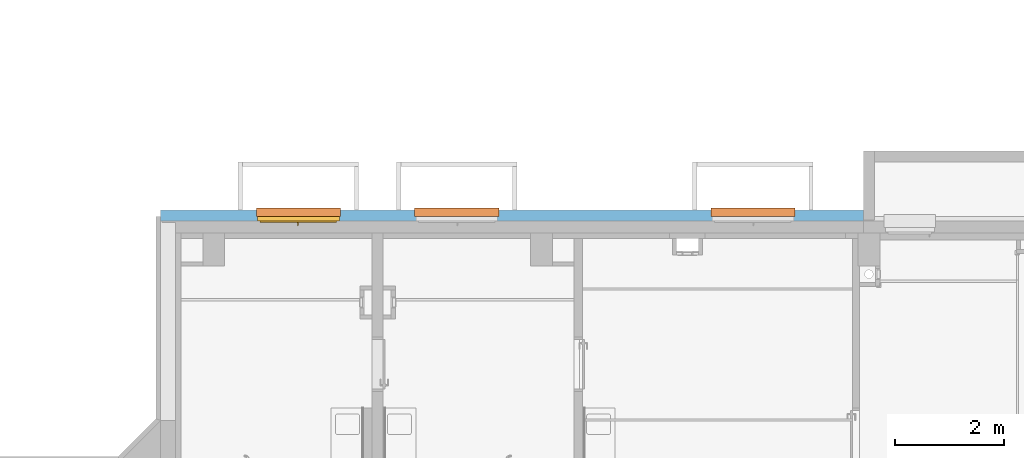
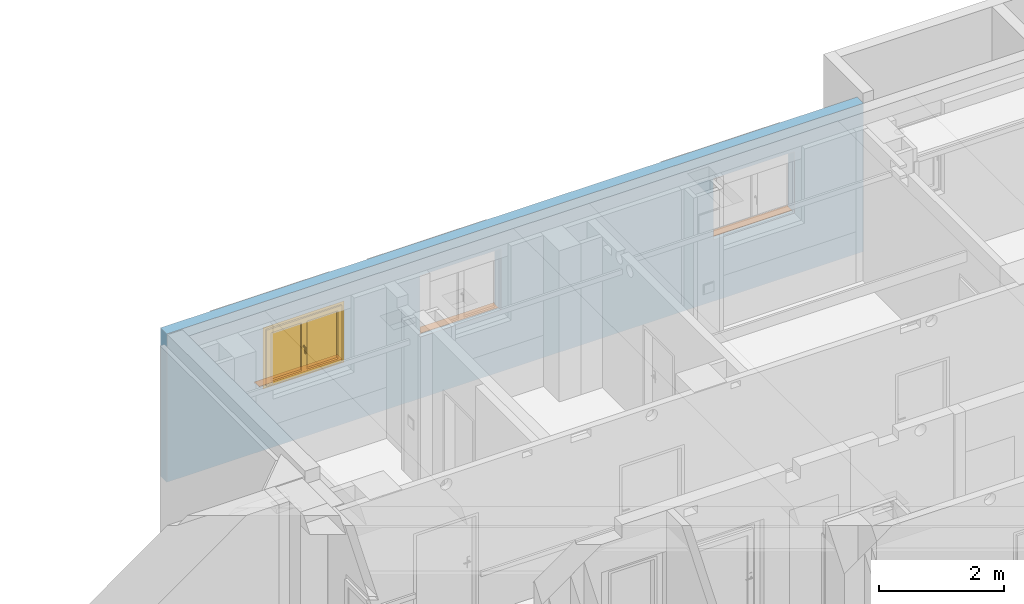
# One storey, part 61 of 84: 3 proxies, 1 window, 3 openings, plus 1 element that does not belong to this part.
"""IFC4 building model written with IfcOpenShell, lengths in metres."""

from ifc_helpers import new_model, entity, si_unit, converted_unit, derived_unit, frame, frame_2d, origin, origin_with_axes, place, context, subcontext, project, spatial, polyline, rectangle, outline, extrude, closed_shell, open_shell, faceted_brep, surface_model, source, transform, mapped, material, layer, layer_set, layer_usage, element, fill, save


model = new_model("IFC4")

# Units and contexts
model_context = context("Model", 3, precision=1e-05, world=origin())
body_context = subcontext(model_context, "Body", "Model", "MODEL_VIEW")
ifc_project = project(units=[si_unit("LENGTHUNIT", "METRE"), si_unit("AREAUNIT", "SQUARE_METRE"), si_unit("VOLUMEUNIT", "CUBIC_METRE"), si_unit("MASSUNIT", "GRAM", prefix="KILO"), converted_unit("PLANEANGLEUNIT", "DEGREE", entity("IfcPlaneAngleMeasure", 0.0174532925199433), si_unit("PLANEANGLEUNIT", "RADIAN"), dimensions=[0, 0, 0, 0, 0, 0, 0]), derived_unit("THERMALTRANSMITTANCEUNIT", [(si_unit("POWERUNIT", "WATT"), 1), (si_unit("THERMODYNAMICTEMPERATUREUNIT", "KELVIN"), -1), (si_unit("LENGTHUNIT", "METRE"), -2)]), derived_unit("VOLUMETRICFLOWRATEUNIT", [(si_unit("LENGTHUNIT", "METRE"), 3), (converted_unit("TIMEUNIT", "hour", entity("IfcTimeMeasure", 3600.0), si_unit("TIMEUNIT", "SECOND"), dimensions=[0, 0, 1, 0, 0, 0, 0]), -1), (si_unit("LENGTHUNIT", "METRE"), -1)])], contexts=[model_context])

# Site, building, storey
site_placement = place(None, origin())
site = spatial("IfcSite", under=ifc_project, at=site_placement, Name="3. ASŘ", CompositionType="ELEMENT")
building_placement = place(site_placement, origin())
building = spatial("IfcBuilding", under=site, at=building_placement, Name="Pavilon C", CompositionType="ELEMENT")
storey_placement = place(building_placement, frame((0.0, 0.0, -3.3)))
storey = spatial("IfcBuildingStorey", under=building, at=storey_placement, Name="Půdorys 1.PP", CompositionType="ELEMENT", Elevation=-3.3)

# Wall, openings, window, proxies
ifc_material_1 = material(Name="PERIMETR")
ifc_layer = layer(ifc_material_1, 0.2)
ifc_layer_set = layer_set([ifc_layer])
ifc_layer_usage = layer_usage(ifc_layer_set, "AXIS2", "POSITIVE", 0.0)
wall_placement = place(storey_placement, frame((-0.974999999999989, 15.225, 0.3), z_axis=(0.0, 0.0, 1.0), x_axis=(1.0, -5.65122921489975e-16, 0.0)))
wall = element("IfcWall", 1, at=wall_placement, inside=storey, material=ifc_layer_usage, Name="PERIMETR", context=body_context, shape_type="SweptSolid", body=[
    extrude(rectangle(XDim=12.875, YDim=0.2, at=frame_2d((6.4375, 0.1), x_axis=(1.0, 0.0))), origin_with_axes(), (0.0, 0.0, 1.0), 2.9),
])
opening_1_placement = place(wall_placement, frame((3.27499999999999, 0.2, 1.2), z_axis=(0.0, -1.0, 0.0), x_axis=(0.0, 0.0, 1.0)))
opening_1 = element("IfcOpeningElement", 2, at=opening_1_placement, cuts=wall, Name="Okenní otvor", ObjectType="Opening", context=body_context, shape_type="SweptSolid", body=[
    extrude(outline(polyline([(0.0, 1.5), (1.2, 1.5), (1.2, 0.0), (0.0, 0.0), (0.0, 1.5)])), origin_with_axes(), (0.0, 0.0, 1.0), 0.2),
])
opening_2_placement = place(wall_placement, frame((6.17499999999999, 0.2, 1.2), z_axis=(0.0, -1.0, 0.0), x_axis=(0.0, 0.0, 1.0)))
opening_2 = element("IfcOpeningElement", 3, at=opening_2_placement, cuts=wall, Name="Okenní otvor", ObjectType="Opening", context=body_context, shape_type="SweptSolid", body=[
    extrude(outline(polyline([(0.0, 1.5), (1.2, 1.5), (1.2, 0.0), (0.0, 0.0), (0.0, 1.5)])), origin_with_axes(), (0.0, 0.0, 1.0), 0.2),
])
opening_3_placement = place(wall_placement, frame((11.6, 0.199999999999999, 1.2), z_axis=(0.0, -1.0, 0.0), x_axis=(0.0, 0.0, 1.0)))
opening_3 = element("IfcOpeningElement", 4, at=opening_3_placement, cuts=wall, Name="Okenní otvor", ObjectType="Opening", context=body_context, shape_type="SweptSolid", body=[
    extrude(outline(polyline([(0.0, 1.5), (1.2, 1.5), (1.2, 0.0), (0.0, 0.0), (0.0, 1.5)])), origin_with_axes(), (0.0, 0.0, 1.0), 0.2),
])
shared_shape_1 = source(origin_with_axes(), body_context, "Body", "SurfaceModel", [
    surface_model("IfcShellBasedSurfaceModel", [(0.0, 0.172, 1.2), (0.0, 0.172, -5.02105187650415e-18), (0.08, 0.172, -5.02105187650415e-18), (0.08, 0.172, 1.2), (0.0, 0.0899999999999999, 5.02105187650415e-18), (0.0, 0.0900000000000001, 1.2), (0.08, 0.0900000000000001, 1.2), (0.08, 0.0899999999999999, 5.02105187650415e-18)], [closed_shell([[[0, 1, 2, 3]], [[4, 5, 6, 7]], [[1, 0, 5, 4]], [[2, 1, 4, 7]], [[3, 2, 7, 6]], [[0, 3, 6, 5]]], orient=[[False], [False], [False], [False], [False], [False]])]),
    surface_model("IfcShellBasedSurfaceModel", [(1.42, 0.172, 1.2), (1.42, 0.172, -5.02105187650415e-18), (1.5, 0.172, -5.02105187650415e-18), (1.5, 0.172, 1.2), (1.42, 0.0899999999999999, 5.02105187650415e-18), (1.42, 0.0900000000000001, 1.2), (1.5, 0.0900000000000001, 1.2), (1.5, 0.0899999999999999, 5.02105187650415e-18)], [closed_shell([[[0, 1, 2, 3]], [[4, 5, 6, 7]], [[1, 0, 5, 4]], [[2, 1, 4, 7]], [[3, 2, 7, 6]], [[0, 3, 6, 5]]], orient=[[False], [False], [False], [False], [False], [False]])]),
    surface_model("IfcShellBasedSurfaceModel", [(0.08, 0.172, 0.08), (0.08, 0.172, -5.02105187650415e-18), (1.42, 0.172, -5.02105187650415e-18), (1.42, 0.172, 0.08), (0.08, 0.0899999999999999, 5.02105187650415e-18), (0.08, 0.0899999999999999, 0.08), (1.42, 0.0899999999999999, 0.08), (1.42, 0.0899999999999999, 5.02105187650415e-18)], [closed_shell([[[0, 1, 2, 3]], [[4, 5, 6, 7]], [[1, 0, 5, 4]], [[2, 1, 4, 7]], [[3, 2, 7, 6]], [[0, 3, 6, 5]]], orient=[[False], [False], [False], [False], [False], [False]])]),
    surface_model("IfcShellBasedSurfaceModel", [(0.08, 0.172, 1.2), (0.08, 0.172, 1.12), (1.42, 0.172, 1.12), (1.42, 0.172, 1.2), (0.08, 0.0900000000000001, 1.12), (0.08, 0.0900000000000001, 1.2), (1.42, 0.0900000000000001, 1.2), (1.42, 0.0900000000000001, 1.12)], [closed_shell([[[0, 1, 2, 3]], [[4, 5, 6, 7]], [[1, 0, 5, 4]], [[2, 1, 4, 7]], [[3, 2, 7, 6]], [[0, 3, 6, 5]]], orient=[[False], [False], [False], [False], [False], [False]])]),
    surface_model("IfcShellBasedSurfaceModel", [(0.05, 0.145, 1.15), (0.05, 0.145, 0.05), (0.13, 0.145, 0.05), (0.13, 0.145, 1.15), (0.05, 0.0599999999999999, 0.05), (0.05, 0.0600000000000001, 1.15), (0.13, 0.0600000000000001, 1.15), (0.13, 0.0599999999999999, 0.05)], [closed_shell([[[0, 1, 2, 3]], [[4, 5, 6, 7]], [[1, 0, 5, 4]], [[2, 1, 4, 7]], [[3, 2, 7, 6]], [[0, 3, 6, 5]]], orient=[[False], [False], [False], [False], [False], [False]])]),
    surface_model("IfcShellBasedSurfaceModel", [(0.6995, 0.145, 1.15), (0.6995, 0.145, 0.05), (0.7795, 0.145, 0.05), (0.7795, 0.145, 1.15), (0.6995, 0.0599999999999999, 0.05), (0.6995, 0.0600000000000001, 1.15), (0.7795, 0.0600000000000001, 1.15), (0.7795, 0.0599999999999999, 0.05)], [closed_shell([[[0, 1, 2, 3]], [[4, 5, 6, 7]], [[1, 0, 5, 4]], [[2, 1, 4, 7]], [[3, 2, 7, 6]], [[0, 3, 6, 5]]], orient=[[False], [False], [False], [False], [False], [False]])]),
    surface_model("IfcShellBasedSurfaceModel", [(0.13, 0.145, 0.13), (0.13, 0.145, 0.05), (0.6995, 0.145, 0.05), (0.6995, 0.145, 0.13), (0.13, 0.0599999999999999, 0.05), (0.13, 0.0599999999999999, 0.13), (0.6995, 0.0599999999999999, 0.13), (0.6995, 0.0599999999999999, 0.05)], [closed_shell([[[0, 1, 2, 3]], [[4, 5, 6, 7]], [[1, 0, 5, 4]], [[2, 1, 4, 7]], [[3, 2, 7, 6]], [[0, 3, 6, 5]]], orient=[[False], [False], [False], [False], [False], [False]])]),
    surface_model("IfcShellBasedSurfaceModel", [(0.13, 0.145, 1.15), (0.13, 0.145, 1.07), (0.6995, 0.145, 1.07), (0.6995, 0.145, 1.15), (0.13, 0.0600000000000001, 1.07), (0.13, 0.0600000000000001, 1.15), (0.6995, 0.0600000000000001, 1.15), (0.6995, 0.0600000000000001, 1.07)], [closed_shell([[[0, 1, 2, 3]], [[4, 5, 6, 7]], [[1, 0, 5, 4]], [[2, 1, 4, 7]], [[3, 2, 7, 6]], [[0, 3, 6, 5]]], orient=[[False], [False], [False], [False], [False], [False]])]),
    surface_model("IfcShellBasedSurfaceModel", [(0.727, 0.06, 0.62), (0.727, 0.06, 0.58), (0.752, 0.06, 0.58), (0.752, 0.06, 0.62), (0.727, 0.05, 0.58), (0.727, 0.05, 0.62), (0.752, 0.05, 0.62), (0.752, 0.05, 0.58)], [closed_shell([[[0, 1, 2, 3]], [[4, 5, 6, 7]], [[1, 0, 5, 4]], [[2, 1, 4, 7]], [[3, 2, 7, 6]], [[0, 3, 6, 5]]], orient=[[False], [False], [False], [False], [False], [False]])]),
    surface_model("IfcShellBasedSurfaceModel", [(0.7495, 0.05, 0.6), (0.748160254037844, 0.05, 0.605), (0.7445, 0.05, 0.608660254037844), (0.7395, 0.05, 0.61), (0.7345, 0.05, 0.608660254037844), (0.730839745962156, 0.05, 0.605), (0.7295, 0.05, 0.6), (0.730839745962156, 0.05, 0.595), (0.7345, 0.05, 0.591339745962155), (0.7395, 0.05, 0.59), (0.7445, 0.05, 0.591339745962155), (0.748160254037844, 0.05, 0.595), (0.7495, 0.01, 0.6), (0.748160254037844, 0.00500000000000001, 0.605), (0.7445, 0.00133974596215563, 0.608660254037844), (0.7395, 2.8421709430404e-17, 0.61), (0.7345, 0.00133974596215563, 0.608660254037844), (0.730839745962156, 0.00500000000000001, 0.605), (0.7295, 0.01, 0.6), (0.730839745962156, 0.015, 0.595), (0.7345, 0.0186602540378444, 0.591339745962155), (0.7395, 0.02, 0.59), (0.7445, 0.0186602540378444, 0.591339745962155), (0.748160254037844, 0.015, 0.595), (0.7495, 0.01, 0.485), (0.748160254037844, 0.005, 0.485), (0.7445, 0.0013397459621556, 0.485), (0.7395, 0.0, 0.485), (0.7345, 0.0013397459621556, 0.485), (0.730839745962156, 0.005, 0.485), (0.7295, 0.01, 0.485), (0.730839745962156, 0.015, 0.485), (0.7345, 0.0186602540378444, 0.485), (0.7395, 0.02, 0.485), (0.7445, 0.0186602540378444, 0.485), (0.748160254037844, 0.015, 0.485)], [open_shell([[[0, 1, 2, 3, 4, 5, 6, 7, 8, 9, 10, 11]], [[0, 12, 13, 1]], [[1, 13, 14, 2]], [[2, 14, 15, 3]], [[3, 15, 16, 4]], [[4, 16, 17, 5]], [[5, 17, 18, 6]], [[6, 18, 19, 7]], [[7, 19, 20, 8]], [[8, 20, 21, 9]], [[9, 21, 22, 10]], [[10, 22, 23, 11]], [[11, 23, 12, 0]], [[12, 24, 25, 13]], [[13, 25, 26, 14]], [[14, 26, 27, 15]], [[15, 27, 28, 16]], [[16, 28, 29, 17]], [[17, 29, 30, 18]], [[18, 30, 31, 19]], [[19, 31, 32, 20]], [[20, 32, 33, 21]], [[21, 33, 34, 22]], [[22, 34, 35, 23]], [[23, 35, 24, 12]]], orient=[[False], [False], [False], [False], [False], [False], [False], [False], [False], [False], [False], [False], [False], [False], [False], [False], [False], [False], [False], [False], [False], [False], [False], [False], [False]])]),
    surface_model("IfcShellBasedSurfaceModel", [(0.7205, 0.145, 1.15), (0.7205, 0.145, 0.05), (0.8005, 0.145, 0.05), (0.8005, 0.145, 1.15), (0.7205, 0.0599999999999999, 0.05), (0.7205, 0.0600000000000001, 1.15), (0.8005, 0.0600000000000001, 1.15), (0.8005, 0.0599999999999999, 0.05)], [closed_shell([[[0, 1, 2, 3]], [[4, 5, 6, 7]], [[1, 0, 5, 4]], [[2, 1, 4, 7]], [[3, 2, 7, 6]], [[0, 3, 6, 5]]], orient=[[False], [False], [False], [False], [False], [False]])]),
    surface_model("IfcShellBasedSurfaceModel", [(1.37, 0.145, 1.15), (1.37, 0.145, 0.05), (1.45, 0.145, 0.05), (1.45, 0.145, 1.15), (1.37, 0.0599999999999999, 0.05), (1.37, 0.0600000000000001, 1.15), (1.45, 0.0600000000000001, 1.15), (1.45, 0.0599999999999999, 0.05)], [closed_shell([[[0, 1, 2, 3]], [[4, 5, 6, 7]], [[1, 0, 5, 4]], [[2, 1, 4, 7]], [[3, 2, 7, 6]], [[0, 3, 6, 5]]], orient=[[False], [False], [False], [False], [False], [False]])]),
    surface_model("IfcShellBasedSurfaceModel", [(0.8005, 0.145, 0.13), (0.8005, 0.145, 0.05), (1.37, 0.145, 0.05), (1.37, 0.145, 0.13), (0.8005, 0.0599999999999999, 0.05), (0.8005, 0.0599999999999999, 0.13), (1.37, 0.0599999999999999, 0.13), (1.37, 0.0599999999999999, 0.05)], [closed_shell([[[0, 1, 2, 3]], [[4, 5, 6, 7]], [[1, 0, 5, 4]], [[2, 1, 4, 7]], [[3, 2, 7, 6]], [[0, 3, 6, 5]]], orient=[[False], [False], [False], [False], [False], [False]])]),
    surface_model("IfcShellBasedSurfaceModel", [(0.8005, 0.145, 1.15), (0.8005, 0.145, 1.07), (1.37, 0.145, 1.07), (1.37, 0.145, 1.15), (0.8005, 0.0600000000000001, 1.07), (0.8005, 0.0600000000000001, 1.15), (1.37, 0.0600000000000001, 1.15), (1.37, 0.0600000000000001, 1.07)], [closed_shell([[[0, 1, 2, 3]], [[4, 5, 6, 7]], [[1, 0, 5, 4]], [[2, 1, 4, 7]], [[3, 2, 7, 6]], [[0, 3, 6, 5]]], orient=[[False], [False], [False], [False], [False], [False]])]),
    surface_model("IfcShellBasedSurfaceModel", [(0.13, 0.1025, 0.13), (0.6995, 0.1025, 0.13), (0.6995, 0.1025, 1.07), (0.13, 0.1025, 1.07)], [open_shell([[[0, 1, 2, 3]]], orient=[[False]])]),
    surface_model("IfcShellBasedSurfaceModel", [(0.8005, 0.1025, 0.13), (1.37, 0.1025, 0.13), (1.37, 0.1025, 1.07), (0.8005, 0.1025, 1.07)], [open_shell([[[0, 1, 2, 3]]], orient=[[False]])]),
])
window_placement = place(opening_1_placement, frame((0.0, 1.5, 0.290000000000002), z_axis=(1.0, 0.0, 0.0), x_axis=(0.0, -1.0, -3.20193561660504e-16)))
window = element("IfcWindow", 5, at=window_placement, inside=storey, Name="I.OP06", OverallHeight=1.2, OverallWidth=1.5, PartitioningType="USERDEFINED", PredefinedType="WINDOW", context=body_context, shape_type="MappedRepresentation", body=[
    mapped(shared_shape_1, transform((0.0, 0.0, 0.0), x_axis=(1.0, 0.0, 0.0), y_axis=(0.0, 1.0, 0.0), z_axis=(0.0, 0.0, 1.0), scale=1.0)),
])
fill(opening_1, window)
ifc_material_2 = material(Name="HLINÍKOVÝ PLECH ELOXOVANÝ")
shared_shape_2 = source(origin_with_axes(), body_context, "Body", "Brep", [
    faceted_brep([(0.0, 0.0, 0.0), (0.0, 0.118, 0.0), (0.0, 0.118, 0.005), (0.0, 0.0, 0.005), (1.5, 1.81898940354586e-15, 0.0), (1.5, 1.81898940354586e-15, 0.005), (1.5, 0.118000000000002, 0.005), (1.5, 0.118000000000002, 0.0), (-0.02, 0.0, 0.0), (-0.02, -0.035, 0.0), (1.52, -0.0349999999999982, 0.0), (1.52, 1.81898940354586e-15, 0.0), (1.52, 1.81898940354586e-15, 0.005), (1.52, -0.0399999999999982, 0.005), (-0.02, -0.04, 0.005), (-0.02, 0.0, 0.005), (-0.02, -0.04, -0.025), (-0.02, -0.035, -0.025), (1.52, -0.0349999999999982, -0.025), (1.52, -0.0399999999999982, -0.025)], [[[0, 1, 2, 3]], [[4, 5, 6, 7]], [[1, 0, 8, 9, 10, 11, 4, 7]], [[2, 1, 7, 6]], [[3, 2, 6, 5, 12, 13, 14, 15]], [[8, 15, 14, 16, 17, 9]], [[11, 10, 18, 19, 13, 12]], [[15, 8, 0, 3]], [[5, 4, 11, 12]], [[16, 14, 13, 19]], [[17, 16, 19, 18]], [[9, 17, 18, 10]]], orient=[[False], [False], [False], [False], [False], [False], [False], [False], [False], [False], [False], [False]]),
    faceted_brep([(-0.02, 0.0, 0.0), (-0.02, 0.118, 0.0), (-0.02, 0.118, 0.005), (-0.02, 0.0, 0.005), (0.0, 0.0, 0.0), (0.0, 0.0, 0.005), (0.0, 0.118, 0.005), (0.0, 0.118, 0.0)], [[[0, 1, 2, 3]], [[4, 5, 6, 7]], [[1, 0, 4, 7]], [[2, 1, 7, 6]], [[3, 2, 6, 5]], [[0, 3, 5, 4]]], orient=[[False], [False], [False], [False], [False], [False]]),
    faceted_brep([(1.5, 1.81898940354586e-15, 0.0), (1.5, 0.118000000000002, 0.0), (1.5, 0.118000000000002, 0.005), (1.5, 1.81898940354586e-15, 0.005), (1.52, 1.81898940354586e-15, 0.0), (1.52, 1.81898940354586e-15, 0.005), (1.52, 0.118000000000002, 0.005), (1.52, 0.118000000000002, 0.0)], [[[0, 1, 2, 3]], [[4, 5, 6, 7]], [[1, 0, 4, 7]], [[2, 1, 7, 6]], [[3, 2, 6, 5]], [[0, 3, 5, 4]]], orient=[[False], [False], [False], [False], [False], [False]]),
])
proxy_1_placement = place(opening_1_placement, frame((0.0, 0.0, 0.0), z_axis=(1.0, 0.0, 0.0), x_axis=(0.0, 1.0, 0.0)))
proxy_1 = element("IfcBuildingElementProxy", 6, at=proxy_1_placement, inside=storey, material=ifc_material_2, Name="Parapet vnější", context=body_context, shape_type="MappedRepresentation", body=[
    mapped(shared_shape_2, transform((0.0, 0.0, 0.0), x_axis=(1.0, 0.0, 0.0), y_axis=(0.0, 1.0, 0.0), z_axis=(0.0, 0.0, 1.0), scale=1.0)),
])
fill(opening_1, proxy_1)
ifc_material_3 = material(Name="HLINÍKOVÝ PLECH ELOXOVANÝ")
shared_shape_3 = source(origin_with_axes(), body_context, "Body", "Brep", [
    faceted_brep([(0.0, -1.81898940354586e-15, 0.0), (0.0, 0.117999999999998, 0.0), (0.0, 0.117999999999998, 0.005), (0.0, -1.81898940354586e-15, 0.005), (1.5, 0.0, 0.0), (1.5, 0.0, 0.005), (1.5, 0.118, 0.005), (1.5, 0.118, 0.0), (-0.02, -1.81898940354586e-15, 0.0), (-0.02, -0.0350000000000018, 0.0), (1.52, -0.035, 0.0), (1.52, 0.0, 0.0), (1.52, 0.0, 0.005), (1.52, -0.04, 0.005), (-0.02, -0.0400000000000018, 0.005), (-0.02, -1.81898940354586e-15, 0.005), (-0.02, -0.0400000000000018, -0.025), (-0.02, -0.0350000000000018, -0.025), (1.52, -0.035, -0.025), (1.52, -0.04, -0.025)], [[[0, 1, 2, 3]], [[4, 5, 6, 7]], [[1, 0, 8, 9, 10, 11, 4, 7]], [[2, 1, 7, 6]], [[3, 2, 6, 5, 12, 13, 14, 15]], [[8, 15, 14, 16, 17, 9]], [[11, 10, 18, 19, 13, 12]], [[15, 8, 0, 3]], [[5, 4, 11, 12]], [[16, 14, 13, 19]], [[17, 16, 19, 18]], [[9, 17, 18, 10]]], orient=[[False], [False], [False], [False], [False], [False], [False], [False], [False], [False], [False], [False]]),
    faceted_brep([(-0.02, -1.81898940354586e-15, 0.0), (-0.02, 0.117999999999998, 0.0), (-0.02, 0.117999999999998, 0.005), (-0.02, -1.81898940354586e-15, 0.005), (0.0, -1.81898940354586e-15, 0.0), (0.0, -1.81898940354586e-15, 0.005), (0.0, 0.117999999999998, 0.005), (0.0, 0.117999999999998, 0.0)], [[[0, 1, 2, 3]], [[4, 5, 6, 7]], [[1, 0, 4, 7]], [[2, 1, 7, 6]], [[3, 2, 6, 5]], [[0, 3, 5, 4]]], orient=[[False], [False], [False], [False], [False], [False]]),
    faceted_brep([(1.5, 0.0, 0.0), (1.5, 0.118, 0.0), (1.5, 0.118, 0.005), (1.5, 0.0, 0.005), (1.52, 0.0, 0.0), (1.52, 0.0, 0.005), (1.52, 0.118, 0.005), (1.52, 0.118, 0.0)], [[[0, 1, 2, 3]], [[4, 5, 6, 7]], [[1, 0, 4, 7]], [[2, 1, 7, 6]], [[3, 2, 6, 5]], [[0, 3, 5, 4]]], orient=[[False], [False], [False], [False], [False], [False]]),
])
proxy_2_placement = place(opening_2_placement, frame((0.0, 0.0, 0.0), z_axis=(1.0, 0.0, 0.0), x_axis=(0.0, 1.0, 0.0)))
proxy_2 = element("IfcBuildingElementProxy", 7, at=proxy_2_placement, inside=storey, material=ifc_material_3, Name="Parapet vnější", context=body_context, shape_type="MappedRepresentation", body=[
    mapped(shared_shape_3, transform((0.0, 0.0, 0.0), x_axis=(1.0, 0.0, 0.0), y_axis=(0.0, 1.0, 0.0), z_axis=(0.0, 0.0, 1.0), scale=1.0)),
])
fill(opening_2, proxy_2)
ifc_material_4 = material(Name="HLINÍKOVÝ PLECH ELOXOVANÝ")
shared_shape_4 = source(origin_with_axes(), body_context, "Body", "Brep", [
    faceted_brep([(0.0, -1.81898940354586e-15, 0.0), (0.0, 0.117999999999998, 0.0), (0.0, 0.117999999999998, 0.005), (0.0, -1.81898940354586e-15, 0.005), (1.5, -1.81898940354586e-15, 0.0), (1.5, -1.81898940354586e-15, 0.005), (1.5, 0.117999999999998, 0.005), (1.5, 0.117999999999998, 0.0), (-0.02, -1.81898940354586e-15, 0.0), (-0.02, -0.0350000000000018, 0.0), (1.52, -0.0350000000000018, 0.0), (1.52, -1.81898940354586e-15, 0.0), (1.52, -1.81898940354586e-15, 0.005), (1.52, -0.0400000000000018, 0.005), (-0.02, -0.0400000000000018, 0.005), (-0.02, -1.81898940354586e-15, 0.005), (-0.02, -0.0400000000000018, -0.025), (-0.02, -0.0350000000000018, -0.025), (1.52, -0.0350000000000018, -0.025), (1.52, -0.0400000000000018, -0.025)], [[[0, 1, 2, 3]], [[4, 5, 6, 7]], [[1, 0, 8, 9, 10, 11, 4, 7]], [[2, 1, 7, 6]], [[3, 2, 6, 5, 12, 13, 14, 15]], [[8, 15, 14, 16, 17, 9]], [[11, 10, 18, 19, 13, 12]], [[15, 8, 0, 3]], [[5, 4, 11, 12]], [[16, 14, 13, 19]], [[17, 16, 19, 18]], [[9, 17, 18, 10]]], orient=[[False], [False], [False], [False], [False], [False], [False], [False], [False], [False], [False], [False]]),
    faceted_brep([(-0.02, -1.81898940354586e-15, 0.0), (-0.02, 0.117999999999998, 0.0), (-0.02, 0.117999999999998, 0.005), (-0.02, -1.81898940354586e-15, 0.005), (0.0, -1.81898940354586e-15, 0.0), (0.0, -1.81898940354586e-15, 0.005), (0.0, 0.117999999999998, 0.005), (0.0, 0.117999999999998, 0.0)], [[[0, 1, 2, 3]], [[4, 5, 6, 7]], [[1, 0, 4, 7]], [[2, 1, 7, 6]], [[3, 2, 6, 5]], [[0, 3, 5, 4]]], orient=[[False], [False], [False], [False], [False], [False]]),
    faceted_brep([(1.5, -1.81898940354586e-15, 0.0), (1.5, 0.117999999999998, 0.0), (1.5, 0.117999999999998, 0.005), (1.5, -1.81898940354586e-15, 0.005), (1.52, -1.81898940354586e-15, 0.0), (1.52, -1.81898940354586e-15, 0.005), (1.52, 0.117999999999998, 0.005), (1.52, 0.117999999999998, 0.0)], [[[0, 1, 2, 3]], [[4, 5, 6, 7]], [[1, 0, 4, 7]], [[2, 1, 7, 6]], [[3, 2, 6, 5]], [[0, 3, 5, 4]]], orient=[[False], [False], [False], [False], [False], [False]]),
])
proxy_3_placement = place(opening_3_placement, frame((0.0, 0.0, 0.0), z_axis=(1.0, 0.0, 0.0), x_axis=(0.0, 1.0, 0.0)))
proxy_3 = element("IfcBuildingElementProxy", 8, at=proxy_3_placement, inside=storey, material=ifc_material_4, Name="Parapet vnější", context=body_context, shape_type="MappedRepresentation", body=[
    mapped(shared_shape_4, transform((0.0, 0.0, 0.0), x_axis=(1.0, 0.0, 0.0), y_axis=(0.0, 1.0, 0.0), z_axis=(0.0, 0.0, 1.0), scale=1.0)),
])
fill(opening_3, proxy_3)

save(model, "model.ifc")
